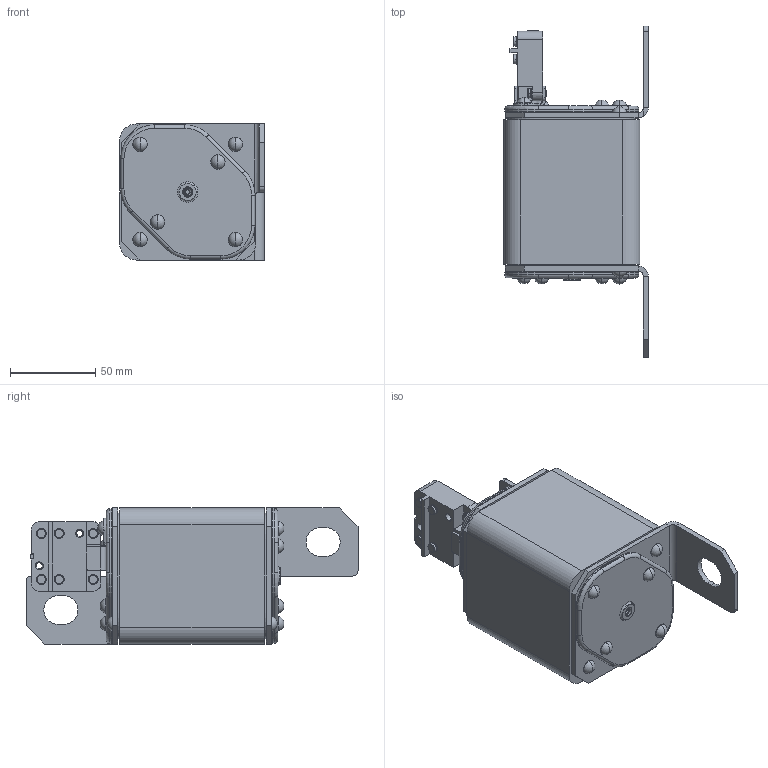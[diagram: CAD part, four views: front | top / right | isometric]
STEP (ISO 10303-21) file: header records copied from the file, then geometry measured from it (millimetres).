
FILE_DESCRIPTION (( 'STEP AP214' ), '1' );
FILE_NAME ('砎槼隰譇膻蠈錪 珫57-39671-XXXA-XXXX-忡曖.STEP', '2023-05-11T12:44:04', ( '' ), ( '' ), 'SwSTEP 2.0', 'SolidWorks 2018', '' );
FILE_SCHEMA (( 'AUTOMOTIVE_DESIGN' ));
Length unit declared in the file: millimetre
Products named in the file (1): 砎槼隰譇膻蠈錪 珫57-39671-XXXA-XXXX-忡曖
Bounding box: 85 x 195 x 80 mm (x, y, z)
Volume: 645848.8 mm3; surface area: 78200.2 mm2
Topology: 1 solids, 20 shells, 873 faces, 2086 edges, 1299 vertices
Faces by surface type: plane 375, cylinder 338, torus 90, cone 46, sphere 24
Entity records: 35769 total; most frequent: CARTESIAN_POINT 5029, DIRECTION 4774, ORIENTED_EDGE 4172, EDGE_CURVE 2086, AXIS2_PLACEMENT_3D 1869, VERTEX_POINT 1299, VECTOR 1036, LINE 1036
